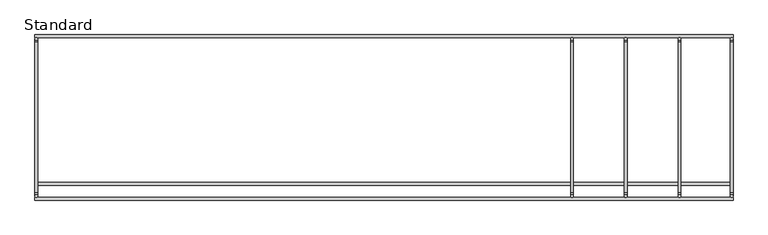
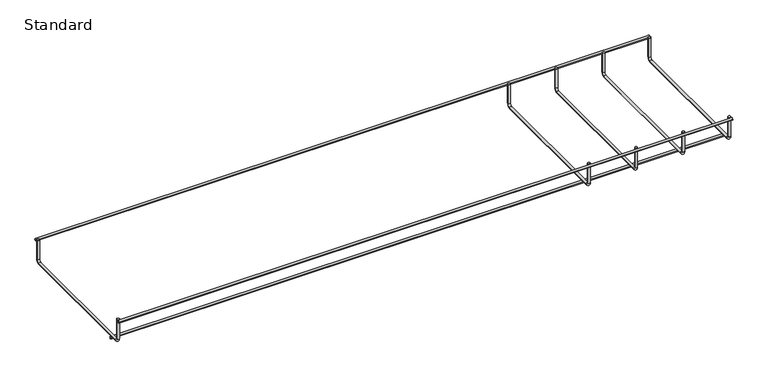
"""IFC4 building model written with IfcOpenShell, lengths in millimetres: cable carrier fitting geometry, CableTray_Atkore-Straight-Length : Standard."""

import ifcopenshell
import ifcopenshell.guid

model = None  # the IFC model being written
_history = None  # IfcOwnerHistory: only IFC2X3 demands one
_inside = {}  # id of a spatial element -> (the spatial element, [elements in it])
_under = {}  # id of a project, library or spatial element -> (it, [spatial elements below it])
_declared = {}  # id of a project -> (the project, [libraries it declares])
_typed = {}  # id of a type object -> (the type object, [elements of that type])
_made_of = {}  # id of a material, layer set ... -> (it, [elements and type objects made of it])


def new_model(schema):
    """Start an empty IFC model of exactly this schema.

    Asked for "IFC4X3", IfcOpenShell would pick the latest addendum, in which some entities
    have other attributes; the version numbers below select the first issue.
    IFC2X3 requires an IfcOwnerHistory on every rooted entity: one is made here for all.
    """
    global model, _history
    if schema == "IFC4X3":
        model = ifcopenshell.file(schema_version=(4, 3, 0, 0))
    else:
        model = ifcopenshell.file(schema=schema)
    _inside.clear()
    _under.clear()
    _declared.clear()
    _typed.clear()
    _made_of.clear()
    _history = None
    if model.schema == "IFC2X3":
        org = make("IfcOrganization", Name="unknown")
        user = make(
            "IfcPersonAndOrganization",
            ThePerson=make("IfcPerson", FamilyName="unknown"),
            TheOrganization=org,
        )
        app = make(
            "IfcApplication",
            ApplicationDeveloper=org,
            Version="unknown",
            ApplicationFullName="unknown",
            ApplicationIdentifier="unknown",
        )
        _history = make(
            "IfcOwnerHistory",
            OwningUser=user,
            OwningApplication=app,
            ChangeAction="ADDED",
            CreationDate=0,
        )
    return model


def make(cls, **values):
    """One entity of the class cls with the attributes given. An attribute that is None is left unset."""
    return model.create_entity(
        cls, **{name: value for name, value in values.items() if value is not None}
    )


def rooted(cls, **values):
    """An entity with a GlobalId (a new one), such as an element, a storey or a relation."""
    return make(cls, GlobalId=ifcopenshell.guid.new(), OwnerHistory=_history, **values)


def si_unit(unit_type, name, prefix=None):
    """IfcSIUnit, for example si_unit("LENGTHUNIT", "METRE", prefix="MILLI")."""
    return make("IfcSIUnit", UnitType=unit_type, Prefix=prefix, Name=name)


def assignment(units):
    """IfcUnitAssignment: the units of a project."""
    return None if units is None else make("IfcUnitAssignment", Units=units)


def point(xyz):
    """IfcCartesianPoint."""
    return None if xyz is None else make("IfcCartesianPoint", Coordinates=xyz)


def direction(xyz):
    """IfcDirection."""
    return None if xyz is None else make("IfcDirection", DirectionRatios=xyz)


def frame(location, z_axis=None, x_axis=None):
    """IfcAxis2Placement3D, a coordinate frame: its origin and axes. An axis left out is left unset."""
    return make(
        "IfcAxis2Placement3D",
        Location=point(location),
        Axis=direction(z_axis),
        RefDirection=direction(x_axis),
    )


def frame_2d(location, x_axis=None):
    """IfcAxis2Placement2D, a coordinate frame in the plane: its origin and x axis."""
    return make(
        "IfcAxis2Placement2D", Location=point(location), RefDirection=direction(x_axis)
    )


def origin():
    """The frame at (0, 0, 0) with its axes left unset."""
    return frame((0.0, 0.0, 0.0))


def place(relative_to, where):
    """IfcLocalPlacement: puts the frame where relative to a parent placement (None: the world)."""
    return make(
        "IfcLocalPlacement", PlacementRelTo=relative_to, RelativePlacement=where
    )


def context(
    kind, dimensions, precision=None, world=None, true_north=None, identifier=None
):
    """IfcGeometricRepresentationContext, for example the 3D "Model" context."""
    return make(
        "IfcGeometricRepresentationContext",
        ContextIdentifier=identifier,
        ContextType=kind,
        CoordinateSpaceDimension=dimensions,
        Precision=precision,
        WorldCoordinateSystem=world,
        TrueNorth=true_north,
    )


def project(units=None, contexts=None):
    """IfcProject with its units and contexts."""
    return rooted(
        "IfcProject",
        Name="project",
        RepresentationContexts=contexts,
        UnitsInContext=assignment(units),
    )


def spatial(cls, under=None, at=None, **own):
    """A site, building, storey or space (cls), placed at a placement, below another one or the project."""
    s = rooted(cls, ObjectPlacement=at, **own)
    if under is not None:
        _under.setdefault(under.id(), (under, []))[1].append(s)
    return s


def circle_curve(where, radius):
    """IfcCircle in the frame where."""
    return make("IfcCircle", Position=where, Radius=radius)


def ellipse_curve(where, semi_axis1, semi_axis2):
    """IfcEllipse in the frame where."""
    return make(
        "IfcEllipse", Position=where, SemiAxis1=semi_axis1, SemiAxis2=semi_axis2
    )


def trimmed(basis, trim1, trim2, sense, master):
    """IfcTrimmedCurve: the piece of a basis curve between two trims."""
    return make(
        "IfcTrimmedCurve",
        BasisCurve=basis,
        Trim1=trim1,
        Trim2=trim2,
        SenseAgreement=sense,
        MasterRepresentation=master,
    )


def segment(curve, same_sense, transition):
    """IfcCompositeCurveSegment."""
    return make(
        "IfcCompositeCurveSegment",
        Transition=transition,
        SameSense=same_sense,
        ParentCurve=curve,
    )


def composite_curve(segments, self_intersect=None):
    """IfcCompositeCurve: segments joined end to end."""
    return make("IfcCompositeCurve", Segments=segments, SelfIntersect=self_intersect)


def outline(outer, holes=None, kind="AREA"):
    """IfcArbitraryClosedProfileDef: a profile drawn as a closed curve; with holes, ...WithVoids."""
    if holes is None:
        return make("IfcArbitraryClosedProfileDef", ProfileType=kind, OuterCurve=outer)
    return make(
        "IfcArbitraryProfileDefWithVoids",
        ProfileType=kind,
        OuterCurve=outer,
        InnerCurves=holes,
    )


def extrude(swept, where, along, depth):
    """IfcExtrudedAreaSolid: the profile swept, set in the frame where, extruded along a direction by depth."""
    return make(
        "IfcExtrudedAreaSolid",
        SweptArea=swept,
        Position=where,
        ExtrudedDirection=direction(along),
        Depth=depth,
    )


def shape(context_of_items, identifier, shape_type, items):
    """IfcShapeRepresentation: the items that make up one representation, for example the "Body"."""
    return make(
        "IfcShapeRepresentation",
        ContextOfItems=context_of_items,
        RepresentationIdentifier=identifier,
        RepresentationType=shape_type,
        Items=items,
    )


def source(mapping_origin, context_of_items, identifier, shape_type, items):
    """IfcRepresentationMap: a shape defined once, which mapped items show again and again."""
    return make(
        "IfcRepresentationMap",
        MappingOrigin=mapping_origin,
        MappedRepresentation=shape(context_of_items, identifier, shape_type, items),
    )


def transform(
    local_origin,
    x_axis=None,
    y_axis=None,
    z_axis=None,
    scale=None,
    scale2=None,
    scale3=None,
    uniform=True,
):
    """IfcCartesianTransformationOperator3D, or its non-uniform kind. x_axis, y_axis, z_axis: its Axis1, 2, 3."""
    if uniform:
        return make(
            "IfcCartesianTransformationOperator3D",
            Axis1=direction(x_axis),
            Axis2=direction(y_axis),
            LocalOrigin=point(local_origin),
            Scale=scale,
            Axis3=direction(z_axis),
        )
    return make(
        "IfcCartesianTransformationOperator3DnonUniform",
        Axis1=direction(x_axis),
        Axis2=direction(y_axis),
        LocalOrigin=point(local_origin),
        Scale=scale,
        Axis3=direction(z_axis),
        Scale2=scale2,
        Scale3=scale3,
    )


def mapped(mapping_source, mapping_target):
    """IfcMappedItem: shows the shape of a source again, moved by a transform."""
    return make(
        "IfcMappedItem", MappingSource=mapping_source, MappingTarget=mapping_target
    )


def made_of(thing, what):
    """Note that an element or type object is made of a material, layer set ...; save() writes the relation."""
    if what is not None:
        _made_of.setdefault(what.id(), (what, []))[1].append(thing)
    return thing


def element(
    cls,
    number,
    at=None,
    inside=None,
    cuts=None,
    type_object=None,
    material=None,
    context=None,
    identifier="Body",
    shape_type=None,
    held_by="IfcProductDefinitionShape",
    body=None,
    shapes=None,
    **own,
):
    """One element of the class cls, such as IfcWall. Its Tag is "e" and its number.

    at: its placement. inside: the storey or other place that contains it. cuts: it is an
    opening in that element (IfcRelVoidsElement). A single representation is given by context,
    identifier, shape_type and body (its items); several are given by shapes. held_by: the class
    of the entity that holds the representations. save() writes the other relations.
    """
    e = rooted(cls, Tag="e%d" % number, ObjectPlacement=at, **own)
    if body is not None:
        shapes = [shape(context, identifier, shape_type, body)]
    if shapes is not None:
        e.Representation = make(held_by, Representations=shapes)
    if inside is not None:
        _inside.setdefault(inside.id(), (inside, []))[1].append(e)
    if cuts is not None:
        rooted(
            "IfcRelVoidsElement", RelatingBuildingElement=cuts, RelatedOpeningElement=e
        )
    if type_object is not None:
        _typed.setdefault(type_object.id(), (type_object, []))[1].append(e)
    return made_of(e, material)


def aggregate(whole, parts):
    """IfcRelAggregates: a whole, such as a stair, and the parts it consists of."""
    return rooted("IfcRelAggregates", RelatingObject=whole, RelatedObjects=parts)


def save(model, path):
    """Write the relations noted so far, then the file.

    IfcRelAggregates (storeys below a building ...), IfcRelContainedInSpatialStructure (elements
    in a storey), IfcRelDefinesByType, IfcRelAssociatesMaterial and IfcRelDeclares: one each for
    every whole, place, type object, material and project.
    """
    for whole, parts in _under.values():
        aggregate(whole, parts)
    for where, things in _inside.values():
        rooted(
            "IfcRelContainedInSpatialStructure",
            RelatedElements=things,
            RelatingStructure=where,
        )
    for kind, things in _typed.values():
        rooted("IfcRelDefinesByType", RelatedObjects=things, RelatingType=kind)
    for what, things in _made_of.values():
        rooted("IfcRelAssociatesMaterial", RelatedObjects=things, RelatingMaterial=what)
    for by, libraries in _declared.values():
        rooted("IfcRelDeclares", RelatingContext=by, RelatedDefinitions=libraries)
    model.write(path)


def plane_surface(at):
    """IfcPlane: the flat surface through the origin of the frame at, square to its z axis."""
    return make("IfcPlane", Position=at)


def cylinder_surface(at, radius):
    """IfcCylindricalSurface: all points at the distance radius from the z axis of the frame at."""
    return make("IfcCylindricalSurface", Position=at, Radius=radius)


def revolved_surface(curve, axis_point, axis_direction):
    """IfcSurfaceOfRevolution: the curve turned about the line through axis_point along axis_direction."""
    return make(
        "IfcSurfaceOfRevolution",
        SweptCurve=make("IfcArbitraryOpenProfileDef", ProfileType="CURVE", Curve=curve),
        AxisPosition=make("IfcAxis1Placement", Location=point(axis_point), Axis=direction(axis_direction)),
    )


def advanced_brep(points, edges, surfaces, faces):
    """IfcAdvancedBrep: a solid bounded by faces that lie on surfaces and meet in shared edges.

    An edge is (start, end): straight between two places in points (the first is 0);
    or (start, end, curve); or (start, end, curve, False) where it runs against its curve.
    A face is (place in surfaces, loops), or (place, loops, False) where it looks against
    its surface's normal. A loop lists edges by number (the first is 1), with a minus sign
    where the edge is run from its end to its start. The first loop is the outer one.
    """
    corners = [point(p) for p in points]
    vertices = [make("IfcVertexPoint", VertexGeometry=c) for c in corners]
    made = []
    for start, end, *more in edges:
        made.append(
            make(
                "IfcEdgeCurve",
                EdgeStart=vertices[start],
                EdgeEnd=vertices[end],
                EdgeGeometry=more[0] if more else make("IfcPolyline", Points=[corners[start], corners[end]]),
                SameSense=more[1] if len(more) > 1 else True,
            )
        )
    hull = []
    for where, loops, *sense in faces:
        bounds = []
        for j, loop in enumerate(loops):
            ring = [make("IfcOrientedEdge", EdgeElement=made[abs(k) - 1], Orientation=k > 0) for k in loop]
            bounds.append(
                make(
                    "IfcFaceOuterBound" if j == 0 else "IfcFaceBound",
                    Bound=make("IfcEdgeLoop", EdgeList=ring),
                    Orientation=True,
                )
            )
        hull.append(make("IfcAdvancedFace", Bounds=bounds, FaceSurface=surfaces[where], SameSense=sense[0] if sense else True))
    return make("IfcAdvancedBrep", Outer=make("IfcClosedShell", CfsFaces=hull))


def standard_1cbd9f26(model_context):
    return source(origin(), model_context, "Body", "SolidModel", [
        advanced_brep(
        [(986.5379174, -144.88, 28.4757813), (991.6179174, -144.88, 28.4757813), (986.5379174, -144.88, -14.8133594), (991.6179174, -144.88, -14.8133594), (991.6179174, -138.8375781, -20.8557812), (986.5379174, -138.8375781, -20.8557812), (986.5379174, 138.53, -20.8557812), (991.6179174, 138.53, -20.8557812), (991.6179174, 144.88, -14.5057812), (986.5379174, 144.88, -14.5057812), (986.5379174, 144.88, 28.4757813), (991.6179174, 144.88, 28.4757813)],
        [
            (0, 1, circle_curve(frame((989.0779174, -144.88, 28.4757813), z_axis=(0.0, 0.0, 1.0), x_axis=(1.0, 0.0, 0.0)), 2.54)),
            (1, 0, circle_curve(frame((989.0779174, -144.88, 28.4757813), z_axis=(0.0, 0.0, 1.0), x_axis=(1.0, 0.0, 0.0)), 2.54)),
            (0, 2),
            (2, 3, circle_curve(frame((989.0779174, -144.88, -14.8133594), z_axis=(0.0, 0.0, 1.0), x_axis=(1.0, 0.0, 0.0)), 2.54)),
            (3, 1),
            (3, 2, circle_curve(frame((989.0779174, -144.88, -14.8133594), z_axis=(0.0, 0.0, 1.0), x_axis=(1.0, 0.0, 0.0)), 2.54)),
            (4, 3, circle_curve(frame((991.6179174, -138.8375781, -14.8133594), z_axis=(-1.0, 0.0, 0.0), x_axis=(0.0, -1.0, 0.0)), 6.0424219)),
            (2, 5, circle_curve(frame((986.5379174, -138.8375781, -14.8133594), z_axis=(1.0, 0.0, 0.0), x_axis=(0.0, -1.0, 0.0)), 6.0424219)),
            (5, 4, circle_curve(frame((989.0779174, -138.8375781, -20.8557812), z_axis=(0.0, -1.0, 0.0), x_axis=(1.0, 0.0, 0.0)), 2.54)),
            (4, 5, circle_curve(frame((989.0779174, -138.8375781, -20.8557812), z_axis=(0.0, -1.0, 0.0), x_axis=(1.0, 0.0, 0.0)), 2.54)),
            (5, 6),
            (6, 7, circle_curve(frame((989.0779174, 138.53, -20.8557812), z_axis=(0.0, -1.0, 0.0), x_axis=(1.0, 0.0, 0.0)), 2.54)),
            (7, 4),
            (7, 6, circle_curve(frame((989.0779174, 138.53, -20.8557812), z_axis=(0.0, -1.0, 0.0), x_axis=(1.0, 0.0, 0.0)), 2.54)),
            (8, 7, circle_curve(frame((991.6179174, 138.53, -14.5057812), z_axis=(-1.0, 0.0, 0.0), x_axis=(0.0, 0.0, -1.0)), 6.35)),
            (6, 9, circle_curve(frame((986.5379174, 138.53, -14.5057812), z_axis=(1.0, 0.0, 0.0), x_axis=(0.0, 0.0, -1.0)), 6.35)),
            (9, 8, circle_curve(frame((989.0779174, 144.88, -14.5057812), z_axis=(0.0, 0.0, -1.0), x_axis=(1.0, 0.0, 0.0)), 2.54)),
            (8, 9, circle_curve(frame((989.0779174, 144.88, -14.5057812), z_axis=(0.0, 0.0, -1.0), x_axis=(1.0, 0.0, 0.0)), 2.54)),
            (10, 11, circle_curve(frame((989.0779174, 144.88, 28.4757813), z_axis=(0.0, 0.0, 1.0), x_axis=(1.0, 0.0, 0.0)), 2.54)),
            (11, 10, circle_curve(frame((989.0779174, 144.88, 28.4757813), z_axis=(0.0, 0.0, 1.0), x_axis=(1.0, 0.0, 0.0)), 2.54)),
            (9, 10),
            (11, 8),
        ],
        [
            plane_surface(frame((989.0779174, -144.88, 28.4757813), z_axis=(0.0, 0.0, 1.0), x_axis=(1.0, 0.0, 0.0))),
            cylinder_surface(frame((989.0779174, -144.88, 28.4757813), z_axis=(0.0, 0.0, 1.0), x_axis=(1.0, 0.0, 0.0)), 2.54),
            revolved_surface(trimmed(ellipse_curve(frame((989.0779174, -144.88, -14.8133594), z_axis=(0.0, 0.0, 1.0), x_axis=(1.0, 0.0, 0.0)), 2.54, 2.54), [point((986.5379174, -144.88, -14.8133594))], [point((991.6179174, -144.88, -14.8133594))], True, "CARTESIAN"), (989.0779174, -138.8375781, -14.8133594), (1.0, 0.0, 0.0)),
            revolved_surface(trimmed(ellipse_curve(frame((989.0779174, -144.88, -14.8133594), z_axis=(0.0, 0.0, 1.0), x_axis=(1.0, 0.0, 0.0)), 2.54, 2.54), [point((991.6179174, -144.88, -14.8133594))], [point((986.5379174, -144.88, -14.8133594))], True, "CARTESIAN"), (989.0779174, -138.8375781, -14.8133594), (1.0, 0.0, 0.0)),
            cylinder_surface(frame((989.0779174, -138.8375781, -20.8557812), z_axis=(0.0, -1.0, 0.0), x_axis=(1.0, 0.0, 0.0)), 2.54),
            revolved_surface(trimmed(ellipse_curve(frame((989.0779174, 138.53, -20.8557812), z_axis=(0.0, -1.0, 0.0), x_axis=(1.0, 0.0, 0.0)), 2.54, 2.54), [point((986.5379174, 138.53, -20.8557812))], [point((991.6179174, 138.53, -20.8557812))], True, "CARTESIAN"), (989.0779174, 138.53, -14.5057812), (1.0, 0.0, 0.0)),
            revolved_surface(trimmed(ellipse_curve(frame((989.0779174, 138.53, -20.8557812), z_axis=(0.0, -1.0, 0.0), x_axis=(1.0, 0.0, 0.0)), 2.54, 2.54), [point((991.6179174, 138.53, -20.8557812))], [point((986.5379174, 138.53, -20.8557812))], True, "CARTESIAN"), (989.0779174, 138.53, -14.5057812), (1.0, 0.0, 0.0)),
            plane_surface(frame((989.0779174, 144.88, 28.4757813), z_axis=(0.0, 0.0, 1.0), x_axis=(1.0, 0.0, 0.0))),
            cylinder_surface(frame((989.0779174, 144.88, -14.5057812), z_axis=(0.0, 0.0, -1.0), x_axis=(1.0, 0.0, 0.0)), 2.54),
        ],
        [
            (0, [[1, 2]]),
            (1, [[-1, 3, 4, 5]]),
            (1, [[-2, -5, 6, -3]]),
            (2, [[7, -4, 8, 9]]),
            (3, [[-8, -6, -7, 10]]),
            (4, [[-9, 11, 12, 13]]),
            (4, [[-10, -13, 14, -11]]),
            (5, [[15, -12, 16, 17]]),
            (6, [[-16, -14, -15, 18]]),
            (7, [[19, 20]]),
            (8, [[-17, 21, -20, 22]]),
            (8, [[-18, -22, -19, -21]]),
        ],
    ),
        extrude(outline(composite_curve([segment(trimmed(circle_curve(frame_2d((-122.3375, -25.9357812)), 2.54), [point((-124.8775, -25.9357812))], [point((-119.7975, -25.9357812))], False, "CARTESIAN"), True, "CONTINUOUS"), segment(trimmed(circle_curve(frame_2d((-122.3375, -25.9357812)), 2.54), [point((-119.7975, -25.9357812))], [point((-124.8775, -25.9357812))], False, "CARTESIAN"), True, "CONTINUOUS")], self_intersect=False)), frame((0.0, 0.0, 0.0), z_axis=(1.0, 0.0, 0.0), x_axis=(0.0, 1.0, 0.0)), (0.0, 0.0, 1.0), 1285.8012927),
        extrude(outline(composite_curve([segment(trimmed(circle_curve(frame_2d((-149.96, 25.9357813)), 2.54), [point((-152.5, 25.9357813))], [point((-147.42, 25.9357813))], False, "CARTESIAN"), True, "CONTINUOUS"), segment(trimmed(circle_curve(frame_2d((-149.96, 25.9357813)), 2.54), [point((-147.42, 25.9357813))], [point((-152.5, 25.9357813))], False, "CARTESIAN"), True, "CONTINUOUS")], self_intersect=False)), frame((0.0, 0.0, 0.0), z_axis=(1.0, 0.0, 0.0), x_axis=(0.0, 1.0, 0.0)), (0.0, 0.0, 1.0), 1285.8012927),
        extrude(outline(composite_curve([segment(trimmed(circle_curve(frame_2d((149.96, 25.9357813)), 2.54), [point((147.42, 25.9357813))], [point((152.5, 25.9357813))], False, "CARTESIAN"), True, "CONTINUOUS"), segment(trimmed(circle_curve(frame_2d((149.96, 25.9357813)), 2.54), [point((152.5, 25.9357813))], [point((147.42, 25.9357813))], False, "CARTESIAN"), True, "CONTINUOUS")], self_intersect=False)), frame((0.0, 0.0, 0.0), z_axis=(1.0, 0.0, 0.0), x_axis=(0.0, 1.0, 0.0)), (0.0, 0.0, 1.0), 1285.8012927),
        advanced_brep(
        [(1085.4457092, -144.88, 28.4757813), (1090.5257092, -144.88, 28.4757813), (1085.4457092, -144.88, -14.8133594), (1090.5257092, -144.88, -14.8133594), (1090.5257092, -138.8375781, -20.8557812), (1085.4457092, -138.8375781, -20.8557812), (1085.4457092, 138.53, -20.8557812), (1090.5257092, 138.53, -20.8557812), (1090.5257092, 144.88, -14.5057812), (1085.4457092, 144.88, -14.5057812), (1085.4457092, 144.88, 28.4757813), (1090.5257092, 144.88, 28.4757813)],
        [
            (0, 1, circle_curve(frame((1087.9857092, -144.88, 28.4757813), z_axis=(0.0, 0.0, 1.0), x_axis=(1.0, 0.0, 0.0)), 2.54)),
            (1, 0, circle_curve(frame((1087.9857092, -144.88, 28.4757813), z_axis=(0.0, 0.0, 1.0), x_axis=(1.0, 0.0, 0.0)), 2.54)),
            (0, 2),
            (2, 3, circle_curve(frame((1087.9857092, -144.88, -14.8133594), z_axis=(0.0, 0.0, 1.0), x_axis=(1.0, 0.0, 0.0)), 2.54)),
            (3, 1),
            (3, 2, circle_curve(frame((1087.9857092, -144.88, -14.8133594), z_axis=(0.0, 0.0, 1.0), x_axis=(1.0, 0.0, 0.0)), 2.54)),
            (4, 3, circle_curve(frame((1090.5257092, -138.8375781, -14.8133594), z_axis=(-1.0, 0.0, 0.0), x_axis=(0.0, -1.0, 0.0)), 6.0424219)),
            (2, 5, circle_curve(frame((1085.4457092, -138.8375781, -14.8133594), z_axis=(1.0, 0.0, 0.0), x_axis=(0.0, -1.0, 0.0)), 6.0424219)),
            (5, 4, circle_curve(frame((1087.9857092, -138.8375781, -20.8557812), z_axis=(0.0, -1.0, 0.0), x_axis=(1.0, 0.0, 0.0)), 2.54)),
            (4, 5, circle_curve(frame((1087.9857092, -138.8375781, -20.8557812), z_axis=(0.0, -1.0, 0.0), x_axis=(1.0, 0.0, 0.0)), 2.54)),
            (5, 6),
            (6, 7, circle_curve(frame((1087.9857092, 138.53, -20.8557812), z_axis=(0.0, -1.0, 0.0), x_axis=(1.0, 0.0, 0.0)), 2.54)),
            (7, 4),
            (7, 6, circle_curve(frame((1087.9857092, 138.53, -20.8557812), z_axis=(0.0, -1.0, 0.0), x_axis=(1.0, 0.0, 0.0)), 2.54)),
            (8, 7, circle_curve(frame((1090.5257092, 138.53, -14.5057812), z_axis=(-1.0, 0.0, 0.0), x_axis=(0.0, 0.0, -1.0)), 6.35)),
            (6, 9, circle_curve(frame((1085.4457092, 138.53, -14.5057812), z_axis=(1.0, 0.0, 0.0), x_axis=(0.0, 0.0, -1.0)), 6.35)),
            (9, 8, circle_curve(frame((1087.9857092, 144.88, -14.5057812), z_axis=(0.0, 0.0, -1.0), x_axis=(1.0, 0.0, 0.0)), 2.54)),
            (8, 9, circle_curve(frame((1087.9857092, 144.88, -14.5057812), z_axis=(0.0, 0.0, -1.0), x_axis=(1.0, 0.0, 0.0)), 2.54)),
            (10, 11, circle_curve(frame((1087.9857092, 144.88, 28.4757813), z_axis=(0.0, 0.0, 1.0), x_axis=(1.0, 0.0, 0.0)), 2.54)),
            (11, 10, circle_curve(frame((1087.9857092, 144.88, 28.4757813), z_axis=(0.0, 0.0, 1.0), x_axis=(1.0, 0.0, 0.0)), 2.54)),
            (9, 10),
            (11, 8),
        ],
        [
            plane_surface(frame((1087.9857092, -144.88, 28.4757813), z_axis=(0.0, 0.0, 1.0), x_axis=(1.0, 0.0, 0.0))),
            cylinder_surface(frame((1087.9857092, -144.88, 28.4757813), z_axis=(0.0, 0.0, 1.0), x_axis=(1.0, 0.0, 0.0)), 2.54),
            revolved_surface(trimmed(ellipse_curve(frame((1087.9857092, -144.88, -14.8133594), z_axis=(0.0, 0.0, 1.0), x_axis=(1.0, 0.0, 0.0)), 2.54, 2.54), [point((1085.4457092, -144.88, -14.8133594))], [point((1090.5257092, -144.88, -14.8133594))], True, "CARTESIAN"), (1087.9857092, -138.8375781, -14.8133594), (1.0, 0.0, 0.0)),
            revolved_surface(trimmed(ellipse_curve(frame((1087.9857092, -144.88, -14.8133594), z_axis=(0.0, 0.0, 1.0), x_axis=(1.0, 0.0, 0.0)), 2.54, 2.54), [point((1090.5257092, -144.88, -14.8133594))], [point((1085.4457092, -144.88, -14.8133594))], True, "CARTESIAN"), (1087.9857092, -138.8375781, -14.8133594), (1.0, 0.0, 0.0)),
            cylinder_surface(frame((1087.9857092, -138.8375781, -20.8557812), z_axis=(0.0, -1.0, 0.0), x_axis=(1.0, 0.0, 0.0)), 2.54),
            revolved_surface(trimmed(ellipse_curve(frame((1087.9857092, 138.53, -20.8557812), z_axis=(0.0, -1.0, 0.0), x_axis=(1.0, 0.0, 0.0)), 2.54, 2.54), [point((1085.4457092, 138.53, -20.8557812))], [point((1090.5257092, 138.53, -20.8557812))], True, "CARTESIAN"), (1087.9857092, 138.53, -14.5057812), (1.0, 0.0, 0.0)),
            revolved_surface(trimmed(ellipse_curve(frame((1087.9857092, 138.53, -20.8557812), z_axis=(0.0, -1.0, 0.0), x_axis=(1.0, 0.0, 0.0)), 2.54, 2.54), [point((1090.5257092, 138.53, -20.8557812))], [point((1085.4457092, 138.53, -20.8557812))], True, "CARTESIAN"), (1087.9857092, 138.53, -14.5057812), (1.0, 0.0, 0.0)),
            plane_surface(frame((1087.9857092, 144.88, 28.4757813), z_axis=(0.0, 0.0, 1.0), x_axis=(1.0, 0.0, 0.0))),
            cylinder_surface(frame((1087.9857092, 144.88, -14.5057812), z_axis=(0.0, 0.0, -1.0), x_axis=(1.0, 0.0, 0.0)), 2.54),
        ],
        [
            (0, [[1, 2]]),
            (1, [[-1, 3, 4, 5]]),
            (1, [[-2, -5, 6, -3]]),
            (2, [[7, -4, 8, 9]]),
            (3, [[-8, -6, -7, 10]]),
            (4, [[-9, 11, 12, 13]]),
            (4, [[-10, -13, 14, -11]]),
            (5, [[15, -12, 16, 17]]),
            (6, [[-16, -14, -15, 18]]),
            (7, [[19, 20]]),
            (8, [[-17, 21, -20, 22]]),
            (8, [[-18, -22, -19, -21]]),
        ],
    ),
        advanced_brep(
        [(1184.3535009, -144.88, 28.4757813), (1189.4335009, -144.88, 28.4757813), (1184.3535009, -144.88, -14.8133594), (1189.4335009, -144.88, -14.8133594), (1189.4335009, -138.8375781, -20.8557812), (1184.3535009, -138.8375781, -20.8557812), (1184.3535009, 138.53, -20.8557812), (1189.4335009, 138.53, -20.8557812), (1189.4335009, 144.88, -14.5057812), (1184.3535009, 144.88, -14.5057812), (1184.3535009, 144.88, 28.4757813), (1189.4335009, 144.88, 28.4757813)],
        [
            (0, 1, circle_curve(frame((1186.8935009, -144.88, 28.4757813), z_axis=(0.0, 0.0, 1.0), x_axis=(1.0, 0.0, 0.0)), 2.54)),
            (1, 0, circle_curve(frame((1186.8935009, -144.88, 28.4757813), z_axis=(0.0, 0.0, 1.0), x_axis=(1.0, 0.0, 0.0)), 2.54)),
            (0, 2),
            (2, 3, circle_curve(frame((1186.8935009, -144.88, -14.8133594), z_axis=(0.0, 0.0, 1.0), x_axis=(1.0, 0.0, 0.0)), 2.54)),
            (3, 1),
            (3, 2, circle_curve(frame((1186.8935009, -144.88, -14.8133594), z_axis=(0.0, 0.0, 1.0), x_axis=(1.0, 0.0, 0.0)), 2.54)),
            (4, 3, circle_curve(frame((1189.4335009, -138.8375781, -14.8133594), z_axis=(-1.0, 0.0, 0.0), x_axis=(0.0, -1.0, 0.0)), 6.0424219)),
            (2, 5, circle_curve(frame((1184.3535009, -138.8375781, -14.8133594), z_axis=(1.0, 0.0, 0.0), x_axis=(0.0, -1.0, 0.0)), 6.0424219)),
            (5, 4, circle_curve(frame((1186.8935009, -138.8375781, -20.8557812), z_axis=(0.0, -1.0, 0.0), x_axis=(1.0, 0.0, 0.0)), 2.54)),
            (4, 5, circle_curve(frame((1186.8935009, -138.8375781, -20.8557812), z_axis=(0.0, -1.0, 0.0), x_axis=(1.0, 0.0, 0.0)), 2.54)),
            (5, 6),
            (6, 7, circle_curve(frame((1186.8935009, 138.53, -20.8557812), z_axis=(0.0, -1.0, 0.0), x_axis=(1.0, 0.0, 0.0)), 2.54)),
            (7, 4),
            (7, 6, circle_curve(frame((1186.8935009, 138.53, -20.8557812), z_axis=(0.0, -1.0, 0.0), x_axis=(1.0, 0.0, 0.0)), 2.54)),
            (8, 7, circle_curve(frame((1189.4335009, 138.53, -14.5057812), z_axis=(-1.0, 0.0, 0.0), x_axis=(0.0, 0.0, -1.0)), 6.35)),
            (6, 9, circle_curve(frame((1184.3535009, 138.53, -14.5057812), z_axis=(1.0, 0.0, 0.0), x_axis=(0.0, 0.0, -1.0)), 6.35)),
            (9, 8, circle_curve(frame((1186.8935009, 144.88, -14.5057812), z_axis=(0.0, 0.0, -1.0), x_axis=(1.0, 0.0, 0.0)), 2.54)),
            (8, 9, circle_curve(frame((1186.8935009, 144.88, -14.5057812), z_axis=(0.0, 0.0, -1.0), x_axis=(1.0, 0.0, 0.0)), 2.54)),
            (10, 11, circle_curve(frame((1186.8935009, 144.88, 28.4757813), z_axis=(0.0, 0.0, 1.0), x_axis=(1.0, 0.0, 0.0)), 2.54)),
            (11, 10, circle_curve(frame((1186.8935009, 144.88, 28.4757813), z_axis=(0.0, 0.0, 1.0), x_axis=(1.0, 0.0, 0.0)), 2.54)),
            (9, 10),
            (11, 8),
        ],
        [
            plane_surface(frame((1186.8935009, -144.88, 28.4757813), z_axis=(0.0, 0.0, 1.0), x_axis=(1.0, 0.0, 0.0))),
            cylinder_surface(frame((1186.8935009, -144.88, 28.4757813), z_axis=(0.0, 0.0, 1.0), x_axis=(1.0, 0.0, 0.0)), 2.54),
            revolved_surface(trimmed(ellipse_curve(frame((1186.8935009, -144.88, -14.8133594), z_axis=(0.0, 0.0, 1.0), x_axis=(1.0, 0.0, 0.0)), 2.54, 2.54), [point((1184.3535009, -144.88, -14.8133594))], [point((1189.4335009, -144.88, -14.8133594))], True, "CARTESIAN"), (1186.8935009, -138.8375781, -14.8133594), (1.0, 0.0, 0.0)),
            revolved_surface(trimmed(ellipse_curve(frame((1186.8935009, -144.88, -14.8133594), z_axis=(0.0, 0.0, 1.0), x_axis=(1.0, 0.0, 0.0)), 2.54, 2.54), [point((1189.4335009, -144.88, -14.8133594))], [point((1184.3535009, -144.88, -14.8133594))], True, "CARTESIAN"), (1186.8935009, -138.8375781, -14.8133594), (1.0, 0.0, 0.0)),
            cylinder_surface(frame((1186.8935009, -138.8375781, -20.8557812), z_axis=(0.0, -1.0, 0.0), x_axis=(1.0, 0.0, 0.0)), 2.54),
            revolved_surface(trimmed(ellipse_curve(frame((1186.8935009, 138.53, -20.8557812), z_axis=(0.0, -1.0, 0.0), x_axis=(1.0, 0.0, 0.0)), 2.54, 2.54), [point((1184.3535009, 138.53, -20.8557812))], [point((1189.4335009, 138.53, -20.8557812))], True, "CARTESIAN"), (1186.8935009, 138.53, -14.5057812), (1.0, 0.0, 0.0)),
            revolved_surface(trimmed(ellipse_curve(frame((1186.8935009, 138.53, -20.8557812), z_axis=(0.0, -1.0, 0.0), x_axis=(1.0, 0.0, 0.0)), 2.54, 2.54), [point((1189.4335009, 138.53, -20.8557812))], [point((1184.3535009, 138.53, -20.8557812))], True, "CARTESIAN"), (1186.8935009, 138.53, -14.5057812), (1.0, 0.0, 0.0)),
            plane_surface(frame((1186.8935009, 144.88, 28.4757813), z_axis=(0.0, 0.0, 1.0), x_axis=(1.0, 0.0, 0.0))),
            cylinder_surface(frame((1186.8935009, 144.88, -14.5057812), z_axis=(0.0, 0.0, -1.0), x_axis=(1.0, 0.0, 0.0)), 2.54),
        ],
        [
            (0, [[1, 2]]),
            (1, [[-1, 3, 4, 5]]),
            (1, [[-2, -5, 6, -3]]),
            (2, [[7, -4, 8, 9]]),
            (3, [[-8, -6, -7, 10]]),
            (4, [[-9, 11, 12, 13]]),
            (4, [[-10, -13, 14, -11]]),
            (5, [[15, -12, 16, 17]]),
            (6, [[-16, -14, -15, 18]]),
            (7, [[19, 20]]),
            (8, [[-17, 21, -20, 22]]),
            (8, [[-18, -22, -19, -21]]),
        ],
    ),
        advanced_brep(
        [(0.0, -144.88, 28.4757813), (5.08, -144.88, 28.4757813), (0.0, -144.88, -14.8133594), (5.08, -144.88, -14.8133594), (5.08, -138.8375781, -20.8557812), (0.0, -138.8375781, -20.8557812), (0.0, 138.53, -20.8557812), (5.08, 138.53, -20.8557812), (5.08, 144.88, -14.5057812), (0.0, 144.88, -14.5057812), (0.0, 144.88, 28.4757813), (5.08, 144.88, 28.4757813)],
        [
            (0, 1, circle_curve(frame((2.54, -144.88, 28.4757813), z_axis=(0.0, 0.0, 1.0), x_axis=(1.0, 0.0, 0.0)), 2.54)),
            (1, 0, circle_curve(frame((2.54, -144.88, 28.4757813), z_axis=(0.0, 0.0, 1.0), x_axis=(1.0, 0.0, 0.0)), 2.54)),
            (0, 2),
            (2, 3, circle_curve(frame((2.54, -144.88, -14.8133594), z_axis=(0.0, 0.0, 1.0), x_axis=(1.0, 0.0, 0.0)), 2.54)),
            (3, 1),
            (3, 2, circle_curve(frame((2.54, -144.88, -14.8133594), z_axis=(0.0, 0.0, 1.0), x_axis=(1.0, 0.0, 0.0)), 2.54)),
            (4, 3, circle_curve(frame((5.08, -138.8375781, -14.8133594), z_axis=(-1.0, 0.0, 0.0), x_axis=(0.0, -1.0, 0.0)), 6.0424219)),
            (2, 5, circle_curve(frame((0.0, -138.8375781, -14.8133594), z_axis=(1.0, 0.0, 0.0), x_axis=(0.0, -1.0, 0.0)), 6.0424219)),
            (5, 4, circle_curve(frame((2.54, -138.8375781, -20.8557812), z_axis=(0.0, -1.0, 0.0), x_axis=(1.0, 0.0, 0.0)), 2.54)),
            (4, 5, circle_curve(frame((2.54, -138.8375781, -20.8557812), z_axis=(0.0, -1.0, 0.0), x_axis=(1.0, 0.0, 0.0)), 2.54)),
            (5, 6),
            (6, 7, circle_curve(frame((2.54, 138.53, -20.8557812), z_axis=(0.0, -1.0, 0.0), x_axis=(1.0, 0.0, 0.0)), 2.54)),
            (7, 4),
            (7, 6, circle_curve(frame((2.54, 138.53, -20.8557812), z_axis=(0.0, -1.0, 0.0), x_axis=(1.0, 0.0, 0.0)), 2.54)),
            (8, 7, circle_curve(frame((5.08, 138.53, -14.5057812), z_axis=(-1.0, 0.0, 0.0), x_axis=(0.0, 0.0, -1.0)), 6.35)),
            (6, 9, circle_curve(frame((0.0, 138.53, -14.5057812), z_axis=(1.0, 0.0, 0.0), x_axis=(0.0, 0.0, -1.0)), 6.35)),
            (9, 8, circle_curve(frame((2.54, 144.88, -14.5057812), z_axis=(0.0, 0.0, -1.0), x_axis=(1.0, 0.0, 0.0)), 2.54)),
            (8, 9, circle_curve(frame((2.54, 144.88, -14.5057812), z_axis=(0.0, 0.0, -1.0), x_axis=(1.0, 0.0, 0.0)), 2.54)),
            (10, 11, circle_curve(frame((2.54, 144.88, 28.4757813), z_axis=(0.0, 0.0, 1.0), x_axis=(1.0, 0.0, 0.0)), 2.54)),
            (11, 10, circle_curve(frame((2.54, 144.88, 28.4757813), z_axis=(0.0, 0.0, 1.0), x_axis=(1.0, 0.0, 0.0)), 2.54)),
            (9, 10),
            (11, 8),
        ],
        [
            plane_surface(frame((2.54, -144.88, 28.4757813), z_axis=(0.0, 0.0, 1.0), x_axis=(1.0, 0.0, 0.0))),
            cylinder_surface(frame((2.54, -144.88, 28.4757813), z_axis=(0.0, 0.0, 1.0), x_axis=(1.0, 0.0, 0.0)), 2.54),
            revolved_surface(trimmed(ellipse_curve(frame((2.54, -144.88, -14.8133594), z_axis=(0.0, 0.0, 1.0), x_axis=(1.0, 0.0, 0.0)), 2.54, 2.54), [point((0.0, -144.88, -14.8133594))], [point((5.08, -144.88, -14.8133594))], True, "CARTESIAN"), (2.54, -138.8375781, -14.8133594), (1.0, 0.0, 0.0)),
            revolved_surface(trimmed(ellipse_curve(frame((2.54, -144.88, -14.8133594), z_axis=(0.0, 0.0, 1.0), x_axis=(1.0, 0.0, 0.0)), 2.54, 2.54), [point((5.08, -144.88, -14.8133594))], [point((0.0, -144.88, -14.8133594))], True, "CARTESIAN"), (2.54, -138.8375781, -14.8133594), (1.0, 0.0, 0.0)),
            cylinder_surface(frame((2.54, -138.8375781, -20.8557812), z_axis=(0.0, -1.0, 0.0), x_axis=(1.0, 0.0, 0.0)), 2.54),
            revolved_surface(trimmed(ellipse_curve(frame((2.54, 138.53, -20.8557812), z_axis=(0.0, -1.0, 0.0), x_axis=(1.0, 0.0, 0.0)), 2.54, 2.54), [point((0.0, 138.53, -20.8557812))], [point((5.08, 138.53, -20.8557812))], True, "CARTESIAN"), (2.54, 138.53, -14.5057812), (1.0, 0.0, 0.0)),
            revolved_surface(trimmed(ellipse_curve(frame((2.54, 138.53, -20.8557812), z_axis=(0.0, -1.0, 0.0), x_axis=(1.0, 0.0, 0.0)), 2.54, 2.54), [point((5.08, 138.53, -20.8557812))], [point((0.0, 138.53, -20.8557812))], True, "CARTESIAN"), (2.54, 138.53, -14.5057812), (1.0, 0.0, 0.0)),
            plane_surface(frame((2.54, 144.88, 28.4757813), z_axis=(0.0, 0.0, 1.0), x_axis=(1.0, 0.0, 0.0))),
            cylinder_surface(frame((2.54, 144.88, -14.5057812), z_axis=(0.0, 0.0, -1.0), x_axis=(1.0, 0.0, 0.0)), 2.54),
        ],
        [
            (0, [[1, 2]]),
            (1, [[-1, 3, 4, 5]]),
            (1, [[-2, -5, 6, -3]]),
            (2, [[7, -4, 8, 9]]),
            (3, [[-8, -6, -7, 10]]),
            (4, [[-9, 11, 12, 13]]),
            (4, [[-10, -13, 14, -11]]),
            (5, [[15, -12, 16, 17]]),
            (6, [[-16, -14, -15, 18]]),
            (7, [[19, 20]]),
            (8, [[-17, 21, -20, 22]]),
            (8, [[-18, -22, -19, -21]]),
        ],
    ),
        advanced_brep(
        [(1280.7212927, -144.88, 28.4757813), (1285.8012927, -144.88, 28.4757813), (1280.7212927, -144.88, -14.8133594), (1285.8012927, -144.88, -14.8133594), (1285.8012927, -138.8375781, -20.8557812), (1280.7212927, -138.8375781, -20.8557812), (1280.7212927, 138.53, -20.8557812), (1285.8012927, 138.53, -20.8557812), (1285.8012927, 144.88, -14.5057812), (1280.7212927, 144.88, -14.5057812), (1280.7212927, 144.88, 28.4757813), (1285.8012927, 144.88, 28.4757813)],
        [
            (0, 1, circle_curve(frame((1283.2612927, -144.88, 28.4757813), z_axis=(0.0, 0.0, 1.0), x_axis=(1.0, 0.0, 0.0)), 2.54)),
            (1, 0, circle_curve(frame((1283.2612927, -144.88, 28.4757813), z_axis=(0.0, 0.0, 1.0), x_axis=(1.0, 0.0, 0.0)), 2.54)),
            (0, 2),
            (2, 3, circle_curve(frame((1283.2612927, -144.88, -14.8133594), z_axis=(0.0, 0.0, 1.0), x_axis=(1.0, 0.0, 0.0)), 2.54)),
            (3, 1),
            (3, 2, circle_curve(frame((1283.2612927, -144.88, -14.8133594), z_axis=(0.0, 0.0, 1.0), x_axis=(1.0, 0.0, 0.0)), 2.54)),
            (4, 3, circle_curve(frame((1285.8012927, -138.8375781, -14.8133594), z_axis=(-1.0, 0.0, 0.0), x_axis=(0.0, -1.0, 0.0)), 6.0424219)),
            (2, 5, circle_curve(frame((1280.7212927, -138.8375781, -14.8133594), z_axis=(1.0, 0.0, 0.0), x_axis=(0.0, -1.0, 0.0)), 6.0424219)),
            (5, 4, circle_curve(frame((1283.2612927, -138.8375781, -20.8557812), z_axis=(0.0, -1.0, 0.0), x_axis=(1.0, 0.0, 0.0)), 2.54)),
            (4, 5, circle_curve(frame((1283.2612927, -138.8375781, -20.8557812), z_axis=(0.0, -1.0, 0.0), x_axis=(1.0, 0.0, 0.0)), 2.54)),
            (5, 6),
            (6, 7, circle_curve(frame((1283.2612927, 138.53, -20.8557812), z_axis=(0.0, -1.0, 0.0), x_axis=(1.0, 0.0, 0.0)), 2.54)),
            (7, 4),
            (7, 6, circle_curve(frame((1283.2612927, 138.53, -20.8557812), z_axis=(0.0, -1.0, 0.0), x_axis=(1.0, 0.0, 0.0)), 2.54)),
            (8, 7, circle_curve(frame((1285.8012927, 138.53, -14.5057812), z_axis=(-1.0, 0.0, 0.0), x_axis=(0.0, 0.0, -1.0)), 6.35)),
            (6, 9, circle_curve(frame((1280.7212927, 138.53, -14.5057812), z_axis=(1.0, 0.0, 0.0), x_axis=(0.0, 0.0, -1.0)), 6.35)),
            (9, 8, circle_curve(frame((1283.2612927, 144.88, -14.5057812), z_axis=(0.0, 0.0, -1.0), x_axis=(1.0, 0.0, 0.0)), 2.54)),
            (8, 9, circle_curve(frame((1283.2612927, 144.88, -14.5057812), z_axis=(0.0, 0.0, -1.0), x_axis=(1.0, 0.0, 0.0)), 2.54)),
            (10, 11, circle_curve(frame((1283.2612927, 144.88, 28.4757813), z_axis=(0.0, 0.0, 1.0), x_axis=(1.0, 0.0, 0.0)), 2.54)),
            (11, 10, circle_curve(frame((1283.2612927, 144.88, 28.4757813), z_axis=(0.0, 0.0, 1.0), x_axis=(1.0, 0.0, 0.0)), 2.54)),
            (9, 10),
            (11, 8),
        ],
        [
            plane_surface(frame((1283.2612927, -144.88, 28.4757813), z_axis=(0.0, 0.0, 1.0), x_axis=(1.0, 0.0, 0.0))),
            cylinder_surface(frame((1283.2612927, -144.88, 28.4757813), z_axis=(0.0, 0.0, 1.0), x_axis=(1.0, 0.0, 0.0)), 2.54),
            revolved_surface(trimmed(ellipse_curve(frame((1283.2612927, -144.88, -14.8133594), z_axis=(0.0, 0.0, 1.0), x_axis=(1.0, 0.0, 0.0)), 2.54, 2.54), [point((1280.7212927, -144.88, -14.8133594))], [point((1285.8012927, -144.88, -14.8133594))], True, "CARTESIAN"), (1283.2612927, -138.8375781, -14.8133594), (1.0, 0.0, 0.0)),
            revolved_surface(trimmed(ellipse_curve(frame((1283.2612927, -144.88, -14.8133594), z_axis=(0.0, 0.0, 1.0), x_axis=(1.0, 0.0, 0.0)), 2.54, 2.54), [point((1285.8012927, -144.88, -14.8133594))], [point((1280.7212927, -144.88, -14.8133594))], True, "CARTESIAN"), (1283.2612927, -138.8375781, -14.8133594), (1.0, 0.0, 0.0)),
            cylinder_surface(frame((1283.2612927, -138.8375781, -20.8557812), z_axis=(0.0, -1.0, 0.0), x_axis=(1.0, 0.0, 0.0)), 2.54),
            revolved_surface(trimmed(ellipse_curve(frame((1283.2612927, 138.53, -20.8557812), z_axis=(0.0, -1.0, 0.0), x_axis=(1.0, 0.0, 0.0)), 2.54, 2.54), [point((1280.7212927, 138.53, -20.8557812))], [point((1285.8012927, 138.53, -20.8557812))], True, "CARTESIAN"), (1283.2612927, 138.53, -14.5057812), (1.0, 0.0, 0.0)),
            revolved_surface(trimmed(ellipse_curve(frame((1283.2612927, 138.53, -20.8557812), z_axis=(0.0, -1.0, 0.0), x_axis=(1.0, 0.0, 0.0)), 2.54, 2.54), [point((1285.8012927, 138.53, -20.8557812))], [point((1280.7212927, 138.53, -20.8557812))], True, "CARTESIAN"), (1283.2612927, 138.53, -14.5057812), (1.0, 0.0, 0.0)),
            plane_surface(frame((1283.2612927, 144.88, 28.4757813), z_axis=(0.0, 0.0, 1.0), x_axis=(1.0, 0.0, 0.0))),
            cylinder_surface(frame((1283.2612927, 144.88, -14.5057812), z_axis=(0.0, 0.0, -1.0), x_axis=(1.0, 0.0, 0.0)), 2.54),
        ],
        [
            (0, [[1, 2]]),
            (1, [[-1, 3, 4, 5]]),
            (1, [[-2, -5, 6, -3]]),
            (2, [[7, -4, 8, 9]]),
            (3, [[-8, -6, -7, 10]]),
            (4, [[-9, 11, 12, 13]]),
            (4, [[-10, -13, 14, -11]]),
            (5, [[15, -12, 16, 17]]),
            (6, [[-16, -14, -15, 18]]),
            (7, [[19, 20]]),
            (8, [[-17, 21, -20, 22]]),
            (8, [[-18, -22, -19, -21]]),
        ],
    ),
    ])


if __name__ == "__main__":
    model = new_model("IFC4")
    model_context = context("Model", 3, world=origin())
    ifc_project = project(units=[si_unit("LENGTHUNIT", "METRE", prefix="MILLI")], contexts=[model_context])
    site = spatial("IfcSite", under=ifc_project)
    building = spatial("IfcBuilding", under=site)
    placement = place(None, origin())
    standard_shape = standard_1cbd9f26(model_context)
    element("IfcCableCarrierFitting", 1, ObjectType="CableTray_Atkore-Straight-Length : Standard", at=placement, inside=building, context=model_context, shape_type="MappedRepresentation", body=[
        mapped(standard_shape, transform((0.0, 0.0, 0.0), x_axis=(1.0, 0.0, 0.0), y_axis=(0.0, 1.0, 0.0), z_axis=(0.0, 0.0, 1.0))),
    ])
    save(model, "model.ifc")
